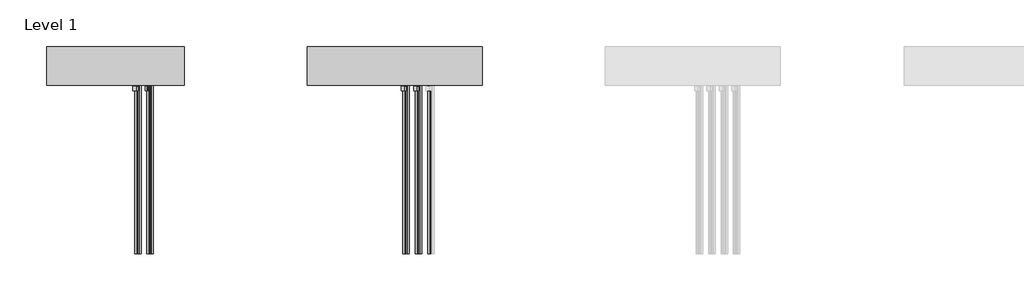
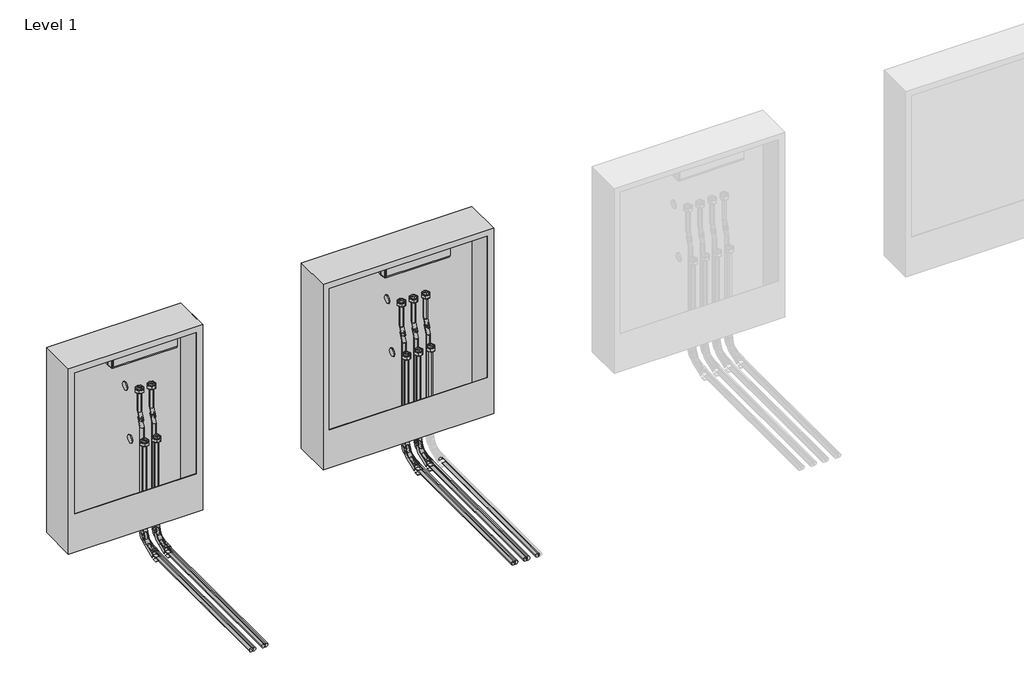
# One storey, part 1 of 15: 36 pipe fittings, 33 pipe segments, 2 proxies, 2 valves.
"""IFC4 building model written with IfcOpenShell, lengths in millimetres."""

from ifc_helpers import new_model, si_unit, point, frame, frame_2d, origin, place, context, project, spatial, circle_curve, trimmed, segment, composite_curve, outline, extrude, transform, mapped, element, save
from components import mechanical_equipment_387b3563, pipe_fitting_b05a7e06, pipe_fitting_27357a6d, pipe_fitting_daada113, pipe_fitting_3e503640, valve_1c49150c, valve_14c71488

model = new_model("IFC4")

# Units and contexts
model_context = context("Model", 3, world=origin())
ifc_project = project(units=[si_unit("LENGTHUNIT", "METRE", prefix="MILLI")], contexts=[model_context])

# Site, building, storey
site = spatial("IfcSite", under=ifc_project)
building = spatial("IfcBuilding", under=site)
storey = spatial("IfcBuildingStorey", under=building, Name="Level 1", Elevation=0.0)

# Proxies
placement = place(None, origin())
mechanical_equipment_shape = mechanical_equipment_387b3563(model_context)
element("IfcBuildingElementProxy", 1, Name="USYSTEMS_Контроллер UH-6 230В1 : Контроллер UH-6 230В 2", ObjectType="USYSTEMS_Контроллер UH-6 230В1 : Контроллер UH-6 230В 2", at=placement, inside=storey, context=model_context, shape_type="MappedRepresentation", body=[
    mapped(mechanical_equipment_shape, transform((2593.6311919, 3891.6582207, 729.375), x_axis=(1.0, 0.0, 0.0), y_axis=(0.0, 1.0, 0.0), z_axis=(0.0, 0.0, 1.0))),
])
element("IfcBuildingElementProxy", 2, Name="USYSTEMS_Контроллер UH-6 230В1 : Контроллер UH-6 230В 2", ObjectType="USYSTEMS_Контроллер UH-6 230В1 : Контроллер UH-6 230В 2", at=placement, inside=storey, context=model_context, shape_type="MappedRepresentation", body=[
    mapped(mechanical_equipment_shape, transform((3721.9565087, 3891.6623936, 729.375), x_axis=(1.0, 0.0, 0.0), y_axis=(0.0, 1.0, 0.0), z_axis=(0.0, 0.0, 1.0))),
])

# Pipe fittings
pipe_fitting_shape = pipe_fitting_b05a7e06(model_context)
element("IfcPipeFitting", 3, ObjectType="USYSTEMS_УгловойФиксатор_Multi : Угловой фиксатор", at=placement, inside=storey, context=model_context, shape_type="MappedRepresentation", body=[
    mapped(pipe_fitting_shape, transform((3668.5620456, 3819.7248936, -114.3211479), x_axis=(0.0, 0.0, -1.0), y_axis=(0.0, -1.0, 0.0), z_axis=(-1.0, 0.0, 0.0))),
])
element("IfcPipeFitting", 4, ObjectType="USYSTEMS_УгловойФиксатор_Multi : Угловой фиксатор", at=placement, inside=storey, context=model_context, shape_type="MappedRepresentation", body=[
    mapped(pipe_fitting_shape, transform((3718.5620456, 3819.7248936, -114.3211479), x_axis=(0.0, 0.0, -1.0), y_axis=(0.0, -1.0, 0.0), z_axis=(-1.0, 0.0, 0.0))),
])
element("IfcPipeFitting", 5, ObjectType="USYSTEMS_УгловойФиксатор_Multi : Угловой фиксатор", at=placement, inside=storey, context=model_context, shape_type="MappedRepresentation", body=[
    mapped(pipe_fitting_shape, transform((3678.6478021, 3855.7248936, -114.3211479), x_axis=(0.0, 0.0, -1.0), y_axis=(0.0, -1.0, 0.0), z_axis=(-1.0, 0.0, 0.0))),
])
element("IfcPipeFitting", 6, ObjectType="USYSTEMS_УгловойФиксатор_Multi : Угловой фиксатор", at=placement, inside=storey, context=model_context, shape_type="MappedRepresentation", body=[
    mapped(pipe_fitting_shape, transform((3728.6478021, 3855.7248936, -114.3211479), x_axis=(0.0, 0.0, -1.0), y_axis=(0.0, -1.0, 0.0), z_axis=(-1.0, 0.0, 0.0))),
])
element("IfcPipeFitting", 7, ObjectType="USYSTEMS_УгловойФиксатор_Multi : Угловой фиксатор", at=placement, inside=storey, context=model_context, shape_type="MappedRepresentation", body=[
    mapped(pipe_fitting_shape, transform((2585.2367288, 3819.7207207, -114.3211479), x_axis=(0.0, 0.0, -1.0), y_axis=(0.0, -1.0, 0.0), z_axis=(-1.0, 0.0, 0.0))),
])
element("IfcPipeFitting", 8, ObjectType="USYSTEMS_УгловойФиксатор_Multi : Угловой фиксатор", at=placement, inside=storey, context=model_context, shape_type="MappedRepresentation", body=[
    mapped(pipe_fitting_shape, transform((2635.2367288, 3819.7207207, -114.3211479), x_axis=(0.0, 0.0, -1.0), y_axis=(0.0, -1.0, 0.0), z_axis=(-1.0, 0.0, 0.0))),
])
element("IfcPipeFitting", 9, ObjectType="USYSTEMS_УгловойФиксатор_Multi : Угловой фиксатор", at=placement, inside=storey, context=model_context, shape_type="MappedRepresentation", body=[
    mapped(pipe_fitting_shape, transform((2595.3224852, 3855.7207207, -114.3211479), x_axis=(0.0, 0.0, -1.0), y_axis=(0.0, -1.0, 0.0), z_axis=(-1.0, 0.0, 0.0))),
])
element("IfcPipeFitting", 10, ObjectType="USYSTEMS_УгловойФиксатор_Multi : Угловой фиксатор", at=placement, inside=storey, context=model_context, shape_type="MappedRepresentation", body=[
    mapped(pipe_fitting_shape, transform((2645.3224852, 3855.7207207, -114.3211479), x_axis=(0.0, 0.0, -1.0), y_axis=(0.0, -1.0, 0.0), z_axis=(-1.0, 0.0, 0.0))),
])
pipe_fitting_2_shape = pipe_fitting_27357a6d(model_context)
element("IfcPipeFitting", 11, ObjectType="USYSTEMS_Штуцер с внутренней резьбой_FlexX_PEX : 16x2,0 x 3/4\" ВР Евроконус", at=placement, inside=storey, context=model_context, shape_type="MappedRepresentation", body=[
    mapped(pipe_fitting_2_shape, transform((2635.2367288, 3855.7209508, 538.3084133), x_axis=(0.0, 0.0, 1.0), y_axis=(0.0, 1.0, 0.0), z_axis=(-1.0, 0.0, 0.0))),
])
element("IfcPipeFitting", 12, ObjectType="USYSTEMS_Штуцер с внутренней резьбой_FlexX_PEX : 16x2,0 x 3/4\" ВР Евроконус", at=placement, inside=storey, context=model_context, shape_type="MappedRepresentation", body=[
    mapped(pipe_fitting_2_shape, transform((2635.2367288, 3819.7209508, 328.3084133), x_axis=(0.0, 0.0, 1.0), y_axis=(0.0, 1.0, 0.0), z_axis=(-1.0, 0.0, 0.0))),
])
element("IfcPipeFitting", 13, ObjectType="USYSTEMS_Штуцер с внутренней резьбой_FlexX_PEX : 16x2,0 x 3/4\" ВР Евроконус", at=placement, inside=storey, context=model_context, shape_type="MappedRepresentation", body=[
    mapped(pipe_fitting_2_shape, transform((2585.2367288, 3819.7209508, 328.3084133), x_axis=(0.0, 0.0, 1.0), y_axis=(0.0, 1.0, 0.0), z_axis=(-1.0, 0.0, 0.0))),
])
element("IfcPipeFitting", 14, ObjectType="USYSTEMS_Штуцер с внутренней резьбой_FlexX_PEX : 16x2,0 x 3/4\" ВР Евроконус", at=placement, inside=storey, context=model_context, shape_type="MappedRepresentation", body=[
    mapped(pipe_fitting_2_shape, transform((2585.2367288, 3855.7209508, 538.3084133), x_axis=(0.0, 0.0, 1.0), y_axis=(0.0, 1.0, 0.0), z_axis=(-1.0, 0.0, 0.0))),
])
element("IfcPipeFitting", 15, ObjectType="USYSTEMS_Штуцер с внутренней резьбой_FlexX_PEX : 16x2,0 x 3/4\" ВР Евроконус", at=placement, inside=storey, context=model_context, shape_type="MappedRepresentation", body=[
    mapped(pipe_fitting_2_shape, transform((3718.5620456, 3855.7253538, 538.3084133), x_axis=(0.0, 0.0, 1.0), y_axis=(0.0, 1.0, 0.0), z_axis=(-1.0, 0.0, 0.0))),
])
element("IfcPipeFitting", 16, ObjectType="USYSTEMS_Штуцер с внутренней резьбой_FlexX_PEX : 16x2,0 x 3/4\" ВР Евроконус", at=placement, inside=storey, context=model_context, shape_type="MappedRepresentation", body=[
    mapped(pipe_fitting_2_shape, transform((3718.5620456, 3819.7253538, 328.3084133), x_axis=(0.0, 0.0, 1.0), y_axis=(0.0, 1.0, 0.0), z_axis=(-1.0, 0.0, 0.0))),
])
element("IfcPipeFitting", 17, ObjectType="USYSTEMS_Штуцер с внутренней резьбой_FlexX_PEX : 16x2,0 x 3/4\" ВР Евроконус", at=placement, inside=storey, context=model_context, shape_type="MappedRepresentation", body=[
    mapped(pipe_fitting_2_shape, transform((3668.5620456, 3819.7253538, 328.3084133), x_axis=(0.0, 0.0, 1.0), y_axis=(0.0, 1.0, 0.0), z_axis=(-1.0, 0.0, 0.0))),
])
element("IfcPipeFitting", 18, ObjectType="USYSTEMS_Штуцер с внутренней резьбой_FlexX_PEX : 16x2,0 x 3/4\" ВР Евроконус", at=placement, inside=storey, context=model_context, shape_type="MappedRepresentation", body=[
    mapped(pipe_fitting_2_shape, transform((3668.5620456, 3855.7253538, 538.3084133), x_axis=(0.0, 0.0, 1.0), y_axis=(0.0, 1.0, 0.0), z_axis=(-1.0, 0.0, 0.0))),
])
element("IfcPipeFitting", 19, ObjectType="USYSTEMS_Штуцер с внутренней резьбой_FlexX_PEX : 16x2,0 x 3/4\" ВР Евроконус", at=placement, inside=storey, context=model_context, shape_type="MappedRepresentation", body=[
    mapped(pipe_fitting_2_shape, transform((3768.5620456, 3855.7253538, 538.3084133), x_axis=(0.0, 0.0, 1.0), y_axis=(0.0, 1.0, 0.0), z_axis=(-1.0, 0.0, 0.0))),
])
element("IfcPipeFitting", 20, ObjectType="USYSTEMS_Штуцер с внутренней резьбой_FlexX_PEX : 16x2,0 x 3/4\" ВР Евроконус", at=placement, inside=storey, context=model_context, shape_type="MappedRepresentation", body=[
    mapped(pipe_fitting_2_shape, transform((3768.5620456, 3819.7253538, 328.3084133), x_axis=(0.0, 0.0, 1.0), y_axis=(0.0, 1.0, 0.0), z_axis=(-1.0, 0.0, 0.0))),
])
pipe_fitting_3_shape = pipe_fitting_daada113(model_context)
element("IfcPipeFitting", 21, ObjectType="USYSTEMS_Гнутая труба_Radi Pipe : PN 6 в бухтах", at=placement, inside=storey, context=model_context, shape_type="MappedRepresentation", body=[
    mapped(pipe_fitting_3_shape, transform((2585.2367288, 3855.7205515, 421.3854492), x_axis=(0.0, 0.0, -1.0), y_axis=(1.0, 0.0, 0.0), z_axis=(0.0, -1.0, 0.0))),
])
element("IfcPipeFitting", 22, ObjectType="USYSTEMS_Гнутая труба_Radi Pipe : PN 6 в бухтах", at=placement, inside=storey, context=model_context, shape_type="MappedRepresentation", body=[
    mapped(pipe_fitting_3_shape, transform((2595.3224852, 3855.7207207, 395.1111553), x_axis=(0.3583679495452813, 0.0, -0.9335804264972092), y_axis=(-0.9335804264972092, 0.0, -0.3583679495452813), z_axis=(0.0, 1.0, 0.0))),
])
element("IfcPipeFitting", 23, ObjectType="USYSTEMS_Гнутая труба_Radi Pipe : PN 6 в бухтах", at=placement, inside=storey, context=model_context, shape_type="MappedRepresentation", body=[
    mapped(pipe_fitting_3_shape, transform((2635.2367288, 3855.7205516, 421.358847), x_axis=(0.0, 0.0, -1.0), y_axis=(1.0, 0.0, 0.0), z_axis=(0.0, -1.0, 0.0))),
])
element("IfcPipeFitting", 24, ObjectType="USYSTEMS_Гнутая труба_Radi Pipe : PN 6 в бухтах", at=placement, inside=storey, context=model_context, shape_type="MappedRepresentation", body=[
    mapped(pipe_fitting_3_shape, transform((2645.3224852, 3855.7207207, 395.0845531), x_axis=(0.3583679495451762, 0.0, -0.9335804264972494), y_axis=(-0.9335804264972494, 0.0, -0.3583679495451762), z_axis=(0.0, 1.0, 0.0))),
])
element("IfcPipeFitting", 25, ObjectType="USYSTEMS_Гнутая труба_Radi Pipe : PN 6 в бухтах", at=placement, inside=storey, context=model_context, shape_type="MappedRepresentation", body=[
    mapped(pipe_fitting_3_shape, transform((3668.5620456, 3855.7245938, 414.5388211), x_axis=(0.0, 0.0, -1.0), y_axis=(1.0, 0.0, 0.0), z_axis=(0.0, -1.0, 0.0))),
])
element("IfcPipeFitting", 26, ObjectType="USYSTEMS_Гнутая труба_Radi Pipe : PN 6 в бухтах", at=placement, inside=storey, context=model_context, shape_type="MappedRepresentation", body=[
    mapped(pipe_fitting_3_shape, transform((3678.6478021, 3855.7248936, 388.2645272), x_axis=(0.3583679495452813, 0.0, -0.9335804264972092), y_axis=(-0.9335804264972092, 0.0, -0.3583679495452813), z_axis=(0.0, 1.0, 0.0))),
])
element("IfcPipeFitting", 27, ObjectType="USYSTEMS_Гнутая труба_Radi Pipe : PN 6 в бухтах", at=placement, inside=storey, context=model_context, shape_type="MappedRepresentation", body=[
    mapped(pipe_fitting_3_shape, transform((3718.5620456, 3855.7245939, 414.5122189), x_axis=(0.0, 0.0, -1.0), y_axis=(1.0, 0.0, 0.0), z_axis=(0.0, -1.0, 0.0))),
])
element("IfcPipeFitting", 28, ObjectType="USYSTEMS_Гнутая труба_Radi Pipe : PN 6 в бухтах", at=placement, inside=storey, context=model_context, shape_type="MappedRepresentation", body=[
    mapped(pipe_fitting_3_shape, transform((3728.6478021, 3855.7248936, 388.237925), x_axis=(0.3583679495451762, 0.0, -0.9335804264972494), y_axis=(-0.9335804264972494, 0.0, -0.3583679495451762), z_axis=(0.0, 1.0, 0.0))),
])
element("IfcPipeFitting", 29, ObjectType="USYSTEMS_Гнутая труба_Radi Pipe : PN 6 в бухтах", at=placement, inside=storey, context=model_context, shape_type="MappedRepresentation", body=[
    mapped(pipe_fitting_3_shape, transform((3768.5620456, 3855.7251258, 414.5122189), x_axis=(0.0, 0.0, -1.0), y_axis=(1.0, 0.0, 0.0), z_axis=(0.0, -1.0, 0.0))),
])
element("IfcPipeFitting", 30, ObjectType="USYSTEMS_Гнутая труба_Radi Pipe : PN 6 в бухтах", at=placement, inside=storey, context=model_context, shape_type="MappedRepresentation", body=[
    mapped(pipe_fitting_3_shape, transform((3778.6478021, 3855.7252157, 388.237925), x_axis=(0.3583679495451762, 0.0, -0.9335804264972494), y_axis=(-0.9335804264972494, 0.0, -0.3583679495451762), z_axis=(0.0, 1.0, 0.0))),
])
pipe_fitting_4_shape = pipe_fitting_3e503640(model_context)
element("IfcPipeFitting", 31, ObjectType="USYSTEMS_Гнутая труба_Radi Pipe : PN 6 в бухтах_С фиксатором", at=placement, inside=storey, context=model_context, shape_type="MappedRepresentation", body=[
    mapped(pipe_fitting_4_shape, transform((3668.5620456, 3819.7248936, -114.3211479), x_axis=(0.0, 0.0, -1.0), y_axis=(0.0, -1.0, 0.0), z_axis=(-1.0, 0.0, 0.0))),
])
element("IfcPipeFitting", 32, ObjectType="USYSTEMS_Гнутая труба_Radi Pipe : PN 6 в бухтах_С фиксатором", at=placement, inside=storey, context=model_context, shape_type="MappedRepresentation", body=[
    mapped(pipe_fitting_4_shape, transform((3718.5620456, 3819.7248936, -114.3211479), x_axis=(0.0, 0.0, -1.0), y_axis=(0.0, -1.0, 0.0), z_axis=(-1.0, 0.0, 0.0))),
])
element("IfcPipeFitting", 33, ObjectType="USYSTEMS_Гнутая труба_Radi Pipe : PN 6 в бухтах_С фиксатором", at=placement, inside=storey, context=model_context, shape_type="MappedRepresentation", body=[
    mapped(pipe_fitting_4_shape, transform((3678.6478021, 3855.7248936, -114.3211479), x_axis=(0.0, 0.0, -1.0), y_axis=(0.0, -1.0, 0.0), z_axis=(-1.0, 0.0, 0.0))),
])
element("IfcPipeFitting", 34, ObjectType="USYSTEMS_Гнутая труба_Radi Pipe : PN 6 в бухтах_С фиксатором", at=placement, inside=storey, context=model_context, shape_type="MappedRepresentation", body=[
    mapped(pipe_fitting_4_shape, transform((3728.6478021, 3855.7248936, -114.3211479), x_axis=(0.0, 0.0, -1.0), y_axis=(0.0, -1.0, 0.0), z_axis=(-1.0, 0.0, 0.0))),
])
element("IfcPipeFitting", 35, ObjectType="USYSTEMS_Гнутая труба_Radi Pipe : PN 6 в бухтах_С фиксатором", at=placement, inside=storey, context=model_context, shape_type="MappedRepresentation", body=[
    mapped(pipe_fitting_4_shape, transform((2585.2367288, 3819.7207207, -114.3211479), x_axis=(0.0, 0.0, -1.0), y_axis=(0.0, -1.0, 0.0), z_axis=(-1.0, 0.0, 0.0))),
])
element("IfcPipeFitting", 36, ObjectType="USYSTEMS_Гнутая труба_Radi Pipe : PN 6 в бухтах_С фиксатором", at=placement, inside=storey, context=model_context, shape_type="MappedRepresentation", body=[
    mapped(pipe_fitting_4_shape, transform((2635.2367288, 3819.7207207, -114.3211479), x_axis=(0.0, 0.0, -1.0), y_axis=(0.0, -1.0, 0.0), z_axis=(-1.0, 0.0, 0.0))),
])
element("IfcPipeFitting", 37, ObjectType="USYSTEMS_Гнутая труба_Radi Pipe : PN 6 в бухтах_С фиксатором", at=placement, inside=storey, context=model_context, shape_type="MappedRepresentation", body=[
    mapped(pipe_fitting_4_shape, transform((2595.3224852, 3855.7207207, -114.3211479), x_axis=(0.0, 0.0, -1.0), y_axis=(0.0, -1.0, 0.0), z_axis=(-1.0, 0.0, 0.0))),
])
element("IfcPipeFitting", 38, ObjectType="USYSTEMS_Гнутая труба_Radi Pipe : PN 6 в бухтах_С фиксатором", at=placement, inside=storey, context=model_context, shape_type="MappedRepresentation", body=[
    mapped(pipe_fitting_4_shape, transform((2645.3224852, 3855.7207207, -114.3211479), x_axis=(0.0, 0.0, -1.0), y_axis=(0.0, -1.0, 0.0), z_axis=(-1.0, 0.0, 0.0))),
])

# Pipe segments
element("IfcPipeSegment", 39, ObjectType="USYSTEMS труба Radi Pipe белая PN6", at=placement, inside=storey, context=model_context, shape_type="SweptSolid", body=[
    extrude(outline(composite_curve([segment(trimmed(circle_curve(frame_2d((0.0, -8.0)), 8.0), [point((-8.0, -8.0))], [point((0.0, 0.0))], False, "CARTESIAN"), True, "CONTINUOUS"), segment(trimmed(circle_curve(frame_2d((0.0, -8.0)), 8.0), [point((0.0, 0.0))], [point((8.0, -8.0))], False, "CARTESIAN"), True, "CONTINUOUS"), segment(trimmed(circle_curve(frame_2d((0.0, -8.0)), 8.0), [point((8.0, -8.0))], [point((0.0, -16.0))], False, "CARTESIAN"), True, "CONTINUOUS"), segment(trimmed(circle_curve(frame_2d((0.0, -8.0)), 8.0), [point((0.0, -16.0))], [point((-8.0, -8.0))], False, "CARTESIAN"), True, "CONTINUOUS")], self_intersect=False)), frame((2585.2367288, 3811.7207207, -43.3211429), z_axis=(0.0, 6.207503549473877e-07, 0.9999999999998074), x_axis=(-1.0, 0.0, 0.0)), (0.0, 0.0, 1.0), 370.6295612),
])
element("IfcPipeSegment", 40, ObjectType="USYSTEMS труба Radi Pipe белая PN6", at=placement, inside=storey, context=model_context, shape_type="SweptSolid", body=[
    extrude(outline(composite_curve([segment(trimmed(circle_curve(frame_2d((0.0, -8.0)), 8.0), [point((-8.0, -8.0))], [point((0.0, 0.0))], False, "CARTESIAN"), True, "CONTINUOUS"), segment(trimmed(circle_curve(frame_2d((0.0, -8.0)), 8.0), [point((0.0, 0.0))], [point((8.0, -8.0))], False, "CARTESIAN"), True, "CONTINUOUS"), segment(trimmed(circle_curve(frame_2d((0.0, -8.0)), 8.0), [point((8.0, -8.0))], [point((0.0, -16.0))], False, "CARTESIAN"), True, "CONTINUOUS"), segment(trimmed(circle_curve(frame_2d((0.0, -8.0)), 8.0), [point((0.0, -16.0))], [point((-8.0, -8.0))], False, "CARTESIAN"), True, "CONTINUOUS")], self_intersect=False)), frame((2635.2367288, 3811.7207207, -43.3211429), z_axis=(0.0, 6.207503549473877e-07, 0.9999999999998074), x_axis=(-1.0, 0.0, 0.0)), (0.0, 0.0, 1.0), 370.6295612),
])
element("IfcPipeSegment", 41, ObjectType="USYSTEMS труба Radi Pipe белая PN6", at=placement, inside=storey, context=model_context, shape_type="SweptSolid", body=[
    extrude(outline(composite_curve([segment(trimmed(circle_curve(frame_2d((0.0, -8.0)), 8.0), [point((-8.0, -8.0))], [point((0.0, 0.0))], False, "CARTESIAN"), True, "CONTINUOUS"), segment(trimmed(circle_curve(frame_2d((0.0, -8.0)), 8.0), [point((0.0, 0.0))], [point((8.0, -8.0))], False, "CARTESIAN"), True, "CONTINUOUS"), segment(trimmed(circle_curve(frame_2d((0.0, -8.0)), 8.0), [point((8.0, -8.0))], [point((0.0, -16.0))], False, "CARTESIAN"), True, "CONTINUOUS"), segment(trimmed(circle_curve(frame_2d((0.0, -8.0)), 8.0), [point((0.0, -16.0))], [point((-8.0, -8.0))], False, "CARTESIAN"), True, "CONTINUOUS")], self_intersect=False)), frame((2635.2367288, 3847.7205516, 445.0822794), z_axis=(0.0, 4.328676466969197e-06, 0.9999999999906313), x_axis=(-1.0, 0.0, 0.0)), (0.0, 0.0, 1.0), 92.2261686),
])
element("IfcPipeSegment", 42, ObjectType="USYSTEMS труба Radi Pipe белая PN6", at=placement, inside=storey, context=model_context, shape_type="SweptSolid", body=[
    extrude(outline(composite_curve([segment(trimmed(circle_curve(frame_2d((0.0, -8.0)), 8.0), [point((-8.0, -8.0))], [point((0.0, 0.0))], False, "CARTESIAN"), True, "CONTINUOUS"), segment(trimmed(circle_curve(frame_2d((0.0, -8.0)), 8.0), [point((0.0, 0.0))], [point((8.0, -8.0))], False, "CARTESIAN"), True, "CONTINUOUS"), segment(trimmed(circle_curve(frame_2d((0.0, -8.0)), 8.0), [point((8.0, -8.0))], [point((0.0, -16.0))], False, "CARTESIAN"), True, "CONTINUOUS"), segment(trimmed(circle_curve(frame_2d((0.0, -8.0)), 8.0), [point((0.0, -16.0))], [point((-8.0, -8.0))], False, "CARTESIAN"), True, "CONTINUOUS")], self_intersect=False)), frame((2585.2367288, 3847.7205515, 445.1088816), z_axis=(0.0, 4.330844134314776e-06, 0.999999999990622), x_axis=(-1.0, 0.0, 0.0)), (0.0, 0.0, 1.0), 92.1995663),
])
element("IfcPipeSegment", 43, ObjectType="USYSTEMS труба Radi Pipe белая PN6", at=placement, inside=storey, context=model_context, shape_type="SweptSolid", body=[
    extrude(outline(composite_curve([segment(trimmed(circle_curve(frame_2d((0.0, 8.0)), 8.0), [point((0.0002096, 16.0))], [point((8.0, 7.9997904))], False, "CARTESIAN"), True, "CONTINUOUS"), segment(trimmed(circle_curve(frame_2d((0.0, 8.0)), 8.0), [point((8.0, 7.9997904))], [point((-0.0002097, 0.0))], False, "CARTESIAN"), True, "CONTINUOUS"), segment(trimmed(circle_curve(frame_2d((0.0, 8.0)), 8.0), [point((-0.0002097, 0.0))], [point((-8.0, 8.0002096))], False, "CARTESIAN"), True, "CONTINUOUS"), segment(trimmed(circle_curve(frame_2d((0.0, 8.0)), 8.0), [point((-8.0, 8.0002096))], [point((0.0002096, 16.0))], False, "CARTESIAN"), True, "CONTINUOUS")], self_intersect=False)), frame((2593.7384342, 3847.7205515, 399.2378246), z_axis=(-0.3583679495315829, 8.767114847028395e-06, 0.9335804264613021), x_axis=(0.9335804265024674, 3.3653800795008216e-06, 0.358367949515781)), (0.0, 0.0, 1.0), 19.3032171),
])
element("IfcPipeSegment", 44, ObjectType="USYSTEMS труба Radi Pipe белая PN6", at=placement, inside=storey, context=model_context, shape_type="SweptSolid", body=[
    extrude(outline(composite_curve([segment(trimmed(circle_curve(frame_2d((2595.3224852, 3855.7207207)), 8.0), [point((2603.3224852, 3855.7207207))], [point((2595.3224852, 3847.7207207))], False, "CARTESIAN"), True, "CONTINUOUS"), segment(trimmed(circle_curve(frame_2d((2595.3224852, 3855.7207207)), 8.0), [point((2595.3224852, 3847.7207207))], [point((2587.3224852, 3855.7207207))], False, "CARTESIAN"), True, "CONTINUOUS"), segment(trimmed(circle_curve(frame_2d((2595.3224852, 3855.7207207)), 8.0), [point((2587.3224852, 3855.7207207))], [point((2595.3224852, 3863.7207207))], False, "CARTESIAN"), True, "CONTINUOUS"), segment(trimmed(circle_curve(frame_2d((2595.3224852, 3855.7207207)), 8.0), [point((2595.3224852, 3863.7207207))], [point((2603.3224852, 3855.7207207))], False, "CARTESIAN"), True, "CONTINUOUS")], self_intersect=False)), frame((0.0, 0.0, -43.3211479), z_axis=(0.0, 0.0, 1.0), x_axis=(1.0, 0.0, 0.0)), (0.0, 0.0, 1.0), 414.7089055),
])
element("IfcPipeSegment", 45, ObjectType="USYSTEMS труба Radi Pipe белая PN6", at=placement, inside=storey, context=model_context, shape_type="SweptSolid", body=[
    extrude(outline(composite_curve([segment(trimmed(circle_curve(frame_2d((0.0, 8.0)), 8.0), [point((0.0002095, 16.0))], [point((8.0, 7.9997905))], False, "CARTESIAN"), True, "CONTINUOUS"), segment(trimmed(circle_curve(frame_2d((0.0, 8.0)), 8.0), [point((8.0, 7.9997905))], [point((-0.0002095, 0.0))], False, "CARTESIAN"), True, "CONTINUOUS"), segment(trimmed(circle_curve(frame_2d((0.0, 8.0)), 8.0), [point((-0.0002095, 0.0))], [point((-8.0, 8.0002095))], False, "CARTESIAN"), True, "CONTINUOUS"), segment(trimmed(circle_curve(frame_2d((0.0, 8.0)), 8.0), [point((-8.0, 8.0002095))], [point((0.0002095, 16.0))], False, "CARTESIAN"), True, "CONTINUOUS")], self_intersect=False)), frame((2643.7384342, 3847.7205516, 399.2112223), z_axis=(-0.3583679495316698, 8.76272668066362e-06, 0.9335804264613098), x_axis=(0.9335804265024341, 3.363695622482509e-06, 0.35836794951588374)), (0.0, 0.0, 1.0), 19.3032171),
])
element("IfcPipeSegment", 46, ObjectType="USYSTEMS труба Radi Pipe белая PN6", at=placement, inside=storey, context=model_context, shape_type="SweptSolid", body=[
    extrude(outline(composite_curve([segment(trimmed(circle_curve(frame_2d((2645.3224852, 3855.7207207)), 8.0), [point((2653.3224852, 3855.7207207))], [point((2645.3224852, 3847.7207207))], False, "CARTESIAN"), True, "CONTINUOUS"), segment(trimmed(circle_curve(frame_2d((2645.3224852, 3855.7207207)), 8.0), [point((2645.3224852, 3847.7207207))], [point((2637.3224852, 3855.7207207))], False, "CARTESIAN"), True, "CONTINUOUS"), segment(trimmed(circle_curve(frame_2d((2645.3224852, 3855.7207207)), 8.0), [point((2637.3224852, 3855.7207207))], [point((2645.3224852, 3863.7207207))], False, "CARTESIAN"), True, "CONTINUOUS"), segment(trimmed(circle_curve(frame_2d((2645.3224852, 3855.7207207)), 8.0), [point((2645.3224852, 3863.7207207))], [point((2653.3224852, 3855.7207207))], False, "CARTESIAN"), True, "CONTINUOUS")], self_intersect=False)), frame((0.0, 0.0, -43.3211479), z_axis=(0.0, 0.0, 1.0), x_axis=(1.0, 0.0, 0.0)), (0.0, 0.0, 1.0), 414.6823032),
])
element("IfcPipeSegment", 47, ObjectType="USYSTEMS труба Radi Pipe белая PN6", at=placement, inside=storey, context=model_context, shape_type="SweptSolid", body=[
    extrude(outline(composite_curve([segment(trimmed(circle_curve(frame_2d((-114.3211479, 2585.2367288)), 8.0), [point((-114.3211479, 2577.2367288))], [point((-122.3211479, 2585.2367288))], False, "CARTESIAN"), True, "CONTINUOUS"), segment(trimmed(circle_curve(frame_2d((-114.3211479, 2585.2367288)), 8.0), [point((-122.3211479, 2585.2367288))], [point((-114.3211479, 2593.2367288))], False, "CARTESIAN"), True, "CONTINUOUS"), segment(trimmed(circle_curve(frame_2d((-114.3211479, 2585.2367288)), 8.0), [point((-114.3211479, 2593.2367288))], [point((-106.3211479, 2585.2367288))], False, "CARTESIAN"), True, "CONTINUOUS"), segment(trimmed(circle_curve(frame_2d((-114.3211479, 2585.2367288)), 8.0), [point((-106.3211479, 2585.2367288))], [point((-114.3211479, 2577.2367288))], False, "CARTESIAN"), True, "CONTINUOUS")], self_intersect=False)), frame((0.0, 3054.7207207, 0.0), z_axis=(0.0, 1.0, 0.0), x_axis=(0.0, 0.0, 1.0)), (0.0, 0.0, 1.0), 694.0),
])
element("IfcPipeSegment", 48, ObjectType="USYSTEMS труба Radi Pipe белая PN6", at=placement, inside=storey, context=model_context, shape_type="SweptSolid", body=[
    extrude(outline(composite_curve([segment(trimmed(circle_curve(frame_2d((-114.3211479, 2635.2367288)), 8.0), [point((-114.3211479, 2627.2367288))], [point((-122.3211479, 2635.2367288))], False, "CARTESIAN"), True, "CONTINUOUS"), segment(trimmed(circle_curve(frame_2d((-114.3211479, 2635.2367288)), 8.0), [point((-122.3211479, 2635.2367288))], [point((-114.3211479, 2643.2367288))], False, "CARTESIAN"), True, "CONTINUOUS"), segment(trimmed(circle_curve(frame_2d((-114.3211479, 2635.2367288)), 8.0), [point((-114.3211479, 2643.2367288))], [point((-106.3211479, 2635.2367288))], False, "CARTESIAN"), True, "CONTINUOUS"), segment(trimmed(circle_curve(frame_2d((-114.3211479, 2635.2367288)), 8.0), [point((-106.3211479, 2635.2367288))], [point((-114.3211479, 2627.2367288))], False, "CARTESIAN"), True, "CONTINUOUS")], self_intersect=False)), frame((0.0, 3054.7207207, 0.0), z_axis=(0.0, 1.0, 0.0), x_axis=(0.0, 0.0, 1.0)), (0.0, 0.0, 1.0), 694.0),
])
element("IfcPipeSegment", 49, ObjectType="USYSTEMS труба Radi Pipe белая PN6", at=placement, inside=storey, context=model_context, shape_type="SweptSolid", body=[
    extrude(outline(composite_curve([segment(trimmed(circle_curve(frame_2d((-114.3211479, 2595.3224852)), 8.0), [point((-114.3211479, 2587.3224852))], [point((-122.3211479, 2595.3224852))], False, "CARTESIAN"), True, "CONTINUOUS"), segment(trimmed(circle_curve(frame_2d((-114.3211479, 2595.3224852)), 8.0), [point((-122.3211479, 2595.3224852))], [point((-114.3211479, 2603.3224852))], False, "CARTESIAN"), True, "CONTINUOUS"), segment(trimmed(circle_curve(frame_2d((-114.3211479, 2595.3224852)), 8.0), [point((-114.3211479, 2603.3224852))], [point((-106.3211479, 2595.3224852))], False, "CARTESIAN"), True, "CONTINUOUS"), segment(trimmed(circle_curve(frame_2d((-114.3211479, 2595.3224852)), 8.0), [point((-106.3211479, 2595.3224852))], [point((-114.3211479, 2587.3224852))], False, "CARTESIAN"), True, "CONTINUOUS")], self_intersect=False)), frame((0.0, 3054.7207207, 0.0), z_axis=(0.0, 1.0, 0.0), x_axis=(0.0, 0.0, 1.0)), (0.0, 0.0, 1.0), 730.0),
])
element("IfcPipeSegment", 50, ObjectType="USYSTEMS труба Radi Pipe белая PN6", at=placement, inside=storey, context=model_context, shape_type="SweptSolid", body=[
    extrude(outline(composite_curve([segment(trimmed(circle_curve(frame_2d((0.0, -8.0)), 8.0), [point((-8.0, -8.0))], [point((0.0, 0.0))], False, "CARTESIAN"), True, "CONTINUOUS"), segment(trimmed(circle_curve(frame_2d((0.0, -8.0)), 8.0), [point((0.0, 0.0))], [point((8.0, -8.0))], False, "CARTESIAN"), True, "CONTINUOUS"), segment(trimmed(circle_curve(frame_2d((0.0, -8.0)), 8.0), [point((8.0, -8.0))], [point((0.0, -16.0))], False, "CARTESIAN"), True, "CONTINUOUS"), segment(trimmed(circle_curve(frame_2d((0.0, -8.0)), 8.0), [point((0.0, -16.0))], [point((-8.0, -8.0))], False, "CARTESIAN"), True, "CONTINUOUS")], self_intersect=False)), frame((3668.5620456, 3811.7248936, -43.321138), z_axis=(0.0, 1.2415007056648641e-06, 0.9999999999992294), x_axis=(-1.0, 0.0, 0.0)), (0.0, 0.0, 1.0), 370.6295612),
])
element("IfcPipeSegment", 51, ObjectType="USYSTEMS труба Radi Pipe белая PN6", at=placement, inside=storey, context=model_context, shape_type="SweptSolid", body=[
    extrude(outline(composite_curve([segment(trimmed(circle_curve(frame_2d((0.0, -8.0)), 8.0), [point((-8.0, -8.0))], [point((0.0, 0.0))], False, "CARTESIAN"), True, "CONTINUOUS"), segment(trimmed(circle_curve(frame_2d((0.0, -8.0)), 8.0), [point((0.0, 0.0))], [point((8.0, -8.0))], False, "CARTESIAN"), True, "CONTINUOUS"), segment(trimmed(circle_curve(frame_2d((0.0, -8.0)), 8.0), [point((8.0, -8.0))], [point((0.0, -16.0))], False, "CARTESIAN"), True, "CONTINUOUS"), segment(trimmed(circle_curve(frame_2d((0.0, -8.0)), 8.0), [point((0.0, -16.0))], [point((-8.0, -8.0))], False, "CARTESIAN"), True, "CONTINUOUS")], self_intersect=False)), frame((3718.5620456, 3811.7248936, -43.321138), z_axis=(0.0, 1.2415007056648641e-06, 0.9999999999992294), x_axis=(-1.0, 0.0, 0.0)), (0.0, 0.0, 1.0), 370.6295612),
])
element("IfcPipeSegment", 52, ObjectType="USYSTEMS труба Radi Pipe белая PN6", at=placement, inside=storey, context=model_context, shape_type="SweptSolid", body=[
    extrude(outline(composite_curve([segment(trimmed(circle_curve(frame_2d((0.0, -8.0)), 8.0), [point((-8.0, -8.0))], [point((0.0, 0.0))], False, "CARTESIAN"), True, "CONTINUOUS"), segment(trimmed(circle_curve(frame_2d((0.0, -8.0)), 8.0), [point((0.0, 0.0))], [point((8.0, -8.0))], False, "CARTESIAN"), True, "CONTINUOUS"), segment(trimmed(circle_curve(frame_2d((0.0, -8.0)), 8.0), [point((8.0, -8.0))], [point((0.0, -16.0))], False, "CARTESIAN"), True, "CONTINUOUS"), segment(trimmed(circle_curve(frame_2d((0.0, -8.0)), 8.0), [point((0.0, -16.0))], [point((-8.0, -8.0))], False, "CARTESIAN"), True, "CONTINUOUS")], self_intersect=False)), frame((3718.5620456, 3847.7245939, 438.235678), z_axis=(0.0, 7.669400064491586e-06, 0.9999999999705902), x_axis=(-1.0, 0.0, 0.0)), (0.0, 0.0, 1.0), 99.0727967),
])
element("IfcPipeSegment", 53, ObjectType="USYSTEMS труба Radi Pipe белая PN6", at=placement, inside=storey, context=model_context, shape_type="SweptSolid", body=[
    extrude(outline(composite_curve([segment(trimmed(circle_curve(frame_2d((0.0, -8.0)), 8.0), [point((-8.0, -8.0))], [point((0.0, 0.0))], False, "CARTESIAN"), True, "CONTINUOUS"), segment(trimmed(circle_curve(frame_2d((0.0, -8.0)), 8.0), [point((0.0, 0.0))], [point((8.0, -8.0))], False, "CARTESIAN"), True, "CONTINUOUS"), segment(trimmed(circle_curve(frame_2d((0.0, -8.0)), 8.0), [point((8.0, -8.0))], [point((0.0, -16.0))], False, "CARTESIAN"), True, "CONTINUOUS"), segment(trimmed(circle_curve(frame_2d((0.0, -8.0)), 8.0), [point((0.0, -16.0))], [point((-8.0, -8.0))], False, "CARTESIAN"), True, "CONTINUOUS")], self_intersect=False)), frame((3668.5620456, 3847.7245938, 438.2622802), z_axis=(0.0, 7.672802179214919e-06, 0.9999999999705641), x_axis=(-1.0, 0.0, 0.0)), (0.0, 0.0, 1.0), 99.0461944),
])
element("IfcPipeSegment", 54, ObjectType="USYSTEMS труба Radi Pipe белая PN6", at=placement, inside=storey, context=model_context, shape_type="SweptSolid", body=[
    extrude(outline(composite_curve([segment(trimmed(circle_curve(frame_2d((0.0, 8.0)), 8.0), [point((0.0003714, 16.0))], [point((8.0, 7.9996286))], False, "CARTESIAN"), True, "CONTINUOUS"), segment(trimmed(circle_curve(frame_2d((0.0, 8.0)), 8.0), [point((8.0, 7.9996286))], [point((-0.0003715, 0.0))], False, "CARTESIAN"), True, "CONTINUOUS"), segment(trimmed(circle_curve(frame_2d((0.0, 8.0)), 8.0), [point((-0.0003715, 0.0))], [point((-8.0000001, 8.0003714))], False, "CARTESIAN"), True, "CONTINUOUS"), segment(trimmed(circle_curve(frame_2d((0.0, 8.0)), 8.0), [point((-8.0000001, 8.0003714))], [point((0.0003714, 16.0))], False, "CARTESIAN"), True, "CONTINUOUS")], self_intersect=False)), frame((3677.0637511, 3847.7245938, 392.3912544), z_axis=(-0.3583679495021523, 1.5532384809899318e-05, 0.9335804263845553), x_axis=(0.9335804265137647, 5.9623239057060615e-06, 0.3583679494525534)), (0.0, 0.0, 1.0), 19.3032171),
])
element("IfcPipeSegment", 55, ObjectType="USYSTEMS труба Radi Pipe белая PN6", at=placement, inside=storey, context=model_context, shape_type="SweptSolid", body=[
    extrude(outline(composite_curve([segment(trimmed(circle_curve(frame_2d((3678.6478021, 3855.7248936)), 8.0), [point((3686.6478021, 3855.7248936))], [point((3678.6478021, 3847.7248936))], False, "CARTESIAN"), True, "CONTINUOUS"), segment(trimmed(circle_curve(frame_2d((3678.6478021, 3855.7248936)), 8.0), [point((3678.6478021, 3847.7248936))], [point((3670.6478021, 3855.7248936))], False, "CARTESIAN"), True, "CONTINUOUS"), segment(trimmed(circle_curve(frame_2d((3678.6478021, 3855.7248936)), 8.0), [point((3670.6478021, 3855.7248936))], [point((3678.6478021, 3863.7248936))], False, "CARTESIAN"), True, "CONTINUOUS"), segment(trimmed(circle_curve(frame_2d((3678.6478021, 3855.7248936)), 8.0), [point((3678.6478021, 3863.7248936))], [point((3686.6478021, 3855.7248936))], False, "CARTESIAN"), True, "CONTINUOUS")], self_intersect=False)), frame((0.0, 0.0, -43.3211479), z_axis=(0.0, 0.0, 1.0), x_axis=(1.0, 0.0, 0.0)), (0.0, 0.0, 1.0), 407.8622774),
])
element("IfcPipeSegment", 56, ObjectType="USYSTEMS труба Radi Pipe белая PN6", at=placement, inside=storey, context=model_context, shape_type="SweptSolid", body=[
    extrude(outline(composite_curve([segment(trimmed(circle_curve(frame_2d((0.0, 8.0)), 8.0), [point((0.0003712, 16.0))], [point((8.0, 7.9996288))], False, "CARTESIAN"), True, "CONTINUOUS"), segment(trimmed(circle_curve(frame_2d((0.0, 8.0)), 8.0), [point((8.0, 7.9996288))], [point((-0.0003712, 0.0))], False, "CARTESIAN"), True, "CONTINUOUS"), segment(trimmed(circle_curve(frame_2d((0.0, 8.0)), 8.0), [point((-0.0003712, 0.0))], [point((-8.0000001, 8.0003713))], False, "CARTESIAN"), True, "CONTINUOUS"), segment(trimmed(circle_curve(frame_2d((0.0, 8.0)), 8.0), [point((-8.0000001, 8.0003713))], [point((0.0003712, 16.0))], False, "CARTESIAN"), True, "CONTINUOUS")], self_intersect=False)), frame((3727.0637511, 3847.7245939, 392.3646521), z_axis=(-0.35836794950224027, 1.5525497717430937e-05, 0.933580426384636), x_axis=(0.933580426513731, 5.959680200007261e-06, 0.35836794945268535)), (0.0, 0.0, 1.0), 19.3032171),
])
element("IfcPipeSegment", 57, ObjectType="USYSTEMS труба Radi Pipe белая PN6", at=placement, inside=storey, context=model_context, shape_type="SweptSolid", body=[
    extrude(outline(composite_curve([segment(trimmed(circle_curve(frame_2d((3728.6478021, 3855.7248936)), 8.0), [point((3736.6478021, 3855.7248936))], [point((3728.6478021, 3847.7248936))], False, "CARTESIAN"), True, "CONTINUOUS"), segment(trimmed(circle_curve(frame_2d((3728.6478021, 3855.7248936)), 8.0), [point((3728.6478021, 3847.7248936))], [point((3720.6478021, 3855.7248936))], False, "CARTESIAN"), True, "CONTINUOUS"), segment(trimmed(circle_curve(frame_2d((3728.6478021, 3855.7248936)), 8.0), [point((3720.6478021, 3855.7248936))], [point((3728.6478021, 3863.7248936))], False, "CARTESIAN"), True, "CONTINUOUS"), segment(trimmed(circle_curve(frame_2d((3728.6478021, 3855.7248936)), 8.0), [point((3728.6478021, 3863.7248936))], [point((3736.6478021, 3855.7248936))], False, "CARTESIAN"), True, "CONTINUOUS")], self_intersect=False)), frame((0.0, 0.0, -43.3211479), z_axis=(0.0, 0.0, 1.0), x_axis=(1.0, 0.0, 0.0)), (0.0, 0.0, 1.0), 407.8356751),
])
element("IfcPipeSegment", 58, ObjectType="USYSTEMS труба Radi Pipe белая PN6", at=placement, inside=storey, context=model_context, shape_type="SweptSolid", body=[
    extrude(outline(composite_curve([segment(trimmed(circle_curve(frame_2d((-114.3211479, 3668.5620456)), 8.0), [point((-114.3211479, 3660.5620456))], [point((-122.3211479, 3668.5620456))], False, "CARTESIAN"), True, "CONTINUOUS"), segment(trimmed(circle_curve(frame_2d((-114.3211479, 3668.5620456)), 8.0), [point((-122.3211479, 3668.5620456))], [point((-114.3211479, 3676.5620456))], False, "CARTESIAN"), True, "CONTINUOUS"), segment(trimmed(circle_curve(frame_2d((-114.3211479, 3668.5620456)), 8.0), [point((-114.3211479, 3676.5620456))], [point((-106.3211479, 3668.5620456))], False, "CARTESIAN"), True, "CONTINUOUS"), segment(trimmed(circle_curve(frame_2d((-114.3211479, 3668.5620456)), 8.0), [point((-106.3211479, 3668.5620456))], [point((-114.3211479, 3660.5620456))], False, "CARTESIAN"), True, "CONTINUOUS")], self_intersect=False)), frame((0.0, 3054.7207207, 0.0), z_axis=(0.0, 1.0, 0.0), x_axis=(0.0, 0.0, 1.0)), (0.0, 0.0, 1.0), 694.0041729),
])
element("IfcPipeSegment", 59, ObjectType="USYSTEMS труба Radi Pipe белая PN6", at=placement, inside=storey, context=model_context, shape_type="SweptSolid", body=[
    extrude(outline(composite_curve([segment(trimmed(circle_curve(frame_2d((-114.3211479, 3718.5620456)), 8.0), [point((-114.3211479, 3710.5620456))], [point((-122.3211479, 3718.5620456))], False, "CARTESIAN"), True, "CONTINUOUS"), segment(trimmed(circle_curve(frame_2d((-114.3211479, 3718.5620456)), 8.0), [point((-122.3211479, 3718.5620456))], [point((-114.3211479, 3726.5620456))], False, "CARTESIAN"), True, "CONTINUOUS"), segment(trimmed(circle_curve(frame_2d((-114.3211479, 3718.5620456)), 8.0), [point((-114.3211479, 3726.5620456))], [point((-106.3211479, 3718.5620456))], False, "CARTESIAN"), True, "CONTINUOUS"), segment(trimmed(circle_curve(frame_2d((-114.3211479, 3718.5620456)), 8.0), [point((-106.3211479, 3718.5620456))], [point((-114.3211479, 3710.5620456))], False, "CARTESIAN"), True, "CONTINUOUS")], self_intersect=False)), frame((0.0, 3054.7207207, 0.0), z_axis=(0.0, 1.0, 0.0), x_axis=(0.0, 0.0, 1.0)), (0.0, 0.0, 1.0), 694.0041729),
])
element("IfcPipeSegment", 60, ObjectType="USYSTEMS труба Radi Pipe белая PN6", at=placement, inside=storey, context=model_context, shape_type="SweptSolid", body=[
    extrude(outline(composite_curve([segment(trimmed(circle_curve(frame_2d((-114.3211479, 3678.6478021)), 8.0), [point((-114.3211479, 3670.6478021))], [point((-122.3211479, 3678.6478021))], False, "CARTESIAN"), True, "CONTINUOUS"), segment(trimmed(circle_curve(frame_2d((-114.3211479, 3678.6478021)), 8.0), [point((-122.3211479, 3678.6478021))], [point((-114.3211479, 3686.6478021))], False, "CARTESIAN"), True, "CONTINUOUS"), segment(trimmed(circle_curve(frame_2d((-114.3211479, 3678.6478021)), 8.0), [point((-114.3211479, 3686.6478021))], [point((-106.3211479, 3678.6478021))], False, "CARTESIAN"), True, "CONTINUOUS"), segment(trimmed(circle_curve(frame_2d((-114.3211479, 3678.6478021)), 8.0), [point((-106.3211479, 3678.6478021))], [point((-114.3211479, 3670.6478021))], False, "CARTESIAN"), True, "CONTINUOUS")], self_intersect=False)), frame((0.0, 3054.7207207, 0.0), z_axis=(0.0, 1.0, 0.0), x_axis=(0.0, 0.0, 1.0)), (0.0, 0.0, 1.0), 730.0041729),
])
element("IfcPipeSegment", 61, ObjectType="USYSTEMS труба Radi Pipe белая PN6", at=placement, inside=storey, context=model_context, shape_type="SweptSolid", body=[
    extrude(outline(composite_curve([segment(trimmed(circle_curve(frame_2d((-114.3211479, 3728.6478021)), 8.0), [point((-114.3211479, 3720.6478021))], [point((-122.3211479, 3728.6478021))], False, "CARTESIAN"), True, "CONTINUOUS"), segment(trimmed(circle_curve(frame_2d((-114.3211479, 3728.6478021)), 8.0), [point((-122.3211479, 3728.6478021))], [point((-114.3211479, 3736.6478021))], False, "CARTESIAN"), True, "CONTINUOUS"), segment(trimmed(circle_curve(frame_2d((-114.3211479, 3728.6478021)), 8.0), [point((-114.3211479, 3736.6478021))], [point((-106.3211479, 3728.6478021))], False, "CARTESIAN"), True, "CONTINUOUS"), segment(trimmed(circle_curve(frame_2d((-114.3211479, 3728.6478021)), 8.0), [point((-106.3211479, 3728.6478021))], [point((-114.3211479, 3720.6478021))], False, "CARTESIAN"), True, "CONTINUOUS")], self_intersect=False)), frame((0.0, 3054.7207207, 0.0), z_axis=(0.0, 1.0, 0.0), x_axis=(0.0, 0.0, 1.0)), (0.0, 0.0, 1.0), 730.0041729),
])
element("IfcPipeSegment", 62, ObjectType="USYSTEMS труба Radi Pipe белая PN6", at=placement, inside=storey, context=model_context, shape_type="SweptSolid", body=[
    extrude(outline(composite_curve([segment(trimmed(circle_curve(frame_2d((0.0, -8.0)), 8.0), [point((-8.0, -8.0))], [point((0.0, 0.0))], False, "CARTESIAN"), True, "CONTINUOUS"), segment(trimmed(circle_curve(frame_2d((0.0, -8.0)), 8.0), [point((0.0, 0.0))], [point((8.0, -8.0))], False, "CARTESIAN"), True, "CONTINUOUS"), segment(trimmed(circle_curve(frame_2d((0.0, -8.0)), 8.0), [point((8.0, -8.0))], [point((0.0, -16.0))], False, "CARTESIAN"), True, "CONTINUOUS"), segment(trimmed(circle_curve(frame_2d((0.0, -8.0)), 8.0), [point((0.0, -16.0))], [point((-8.0, -8.0))], False, "CARTESIAN"), True, "CONTINUOUS")], self_intersect=False)), frame((3768.5620456, 3811.7252157, -43.3211449), z_axis=(0.0, 3.7245021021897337e-07, 0.9999999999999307), x_axis=(-1.0, 0.0, 0.0)), (0.0, 0.0, 1.0), 370.6295612),
])
element("IfcPipeSegment", 63, ObjectType="USYSTEMS труба Radi Pipe белая PN6", at=placement, inside=storey, context=model_context, shape_type="SweptSolid", body=[
    extrude(outline(composite_curve([segment(trimmed(circle_curve(frame_2d((0.0, -8.0)), 8.0), [point((-8.0, -8.0))], [point((0.0, 0.0))], False, "CARTESIAN"), True, "CONTINUOUS"), segment(trimmed(circle_curve(frame_2d((0.0, -8.0)), 8.0), [point((0.0, 0.0))], [point((8.0, -8.0))], False, "CARTESIAN"), True, "CONTINUOUS"), segment(trimmed(circle_curve(frame_2d((0.0, -8.0)), 8.0), [point((8.0, -8.0))], [point((0.0, -16.0))], False, "CARTESIAN"), True, "CONTINUOUS"), segment(trimmed(circle_curve(frame_2d((0.0, -8.0)), 8.0), [point((0.0, -16.0))], [point((-8.0, -8.0))], False, "CARTESIAN"), True, "CONTINUOUS")], self_intersect=False)), frame((3768.5620456, 3847.7251258, 438.235635), z_axis=(0.0, 2.300820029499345e-06, 0.9999999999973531), x_axis=(-1.0, 0.0, 0.0)), (0.0, 0.0, 1.0), 99.0727967),
])
element("IfcPipeSegment", 64, ObjectType="USYSTEMS труба Radi Pipe белая PN6", at=placement, inside=storey, context=model_context, shape_type="SweptSolid", body=[
    extrude(outline(composite_curve([segment(trimmed(circle_curve(frame_2d((0.0, 8.0)), 8.0), [point((0.0001113, 16.0))], [point((8.0, 7.9998886))], False, "CARTESIAN"), True, "CONTINUOUS"), segment(trimmed(circle_curve(frame_2d((0.0, 8.0)), 8.0), [point((8.0, 7.9998886))], [point((-0.0001114, 0.0))], False, "CARTESIAN"), True, "CONTINUOUS"), segment(trimmed(circle_curve(frame_2d((0.0, 8.0)), 8.0), [point((-0.0001114, 0.0))], [point((-8.0000001, 8.0001114))], False, "CARTESIAN"), True, "CONTINUOUS"), segment(trimmed(circle_curve(frame_2d((0.0, 8.0)), 8.0), [point((-8.0000001, 8.0001114))], [point((0.0001113, 16.0))], False, "CARTESIAN"), True, "CONTINUOUS")], self_intersect=False)), frame((3777.0637511, 3847.7251258, 392.364559), z_axis=(-0.35836794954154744, 4.65764932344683e-06, 0.9335804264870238), x_axis=(0.9335804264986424, 1.7879040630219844e-06, 0.3583679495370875)), (0.0, 0.0, 1.0), 19.3032171),
])
element("IfcPipeSegment", 65, ObjectType="USYSTEMS труба Radi Pipe белая PN6", at=placement, inside=storey, context=model_context, shape_type="SweptSolid", body=[
    extrude(outline(composite_curve([segment(trimmed(circle_curve(frame_2d((3778.6478021, 3855.7252157)), 8.0), [point((3786.6478021, 3855.7252157))], [point((3778.6478021, 3847.7252157))], False, "CARTESIAN"), True, "CONTINUOUS"), segment(trimmed(circle_curve(frame_2d((3778.6478021, 3855.7252157)), 8.0), [point((3778.6478021, 3847.7252157))], [point((3770.6478021, 3855.7252157))], False, "CARTESIAN"), True, "CONTINUOUS"), segment(trimmed(circle_curve(frame_2d((3778.6478021, 3855.7252157)), 8.0), [point((3770.6478021, 3855.7252157))], [point((3778.6478021, 3863.7252157))], False, "CARTESIAN"), True, "CONTINUOUS"), segment(trimmed(circle_curve(frame_2d((3778.6478021, 3855.7252157)), 8.0), [point((3778.6478021, 3863.7252157))], [point((3786.6478021, 3855.7252157))], False, "CARTESIAN"), True, "CONTINUOUS")], self_intersect=False)), frame((0.0, 0.0, -43.3211479), z_axis=(0.0, 0.0, 1.0), x_axis=(1.0, 0.0, 0.0)), (0.0, 0.0, 1.0), 407.8356751),
])
element("IfcPipeSegment", 66, ObjectType="USYSTEMS труба Radi Pipe белая PN6", at=placement, inside=storey, context=model_context, shape_type="SweptSolid", body=[
    extrude(outline(composite_curve([segment(trimmed(circle_curve(frame_2d((-114.3211479, 3768.5620456)), 8.0), [point((-114.3211479, 3760.5620456))], [point((-122.3211479, 3768.5620456))], False, "CARTESIAN"), True, "CONTINUOUS"), segment(trimmed(circle_curve(frame_2d((-114.3211479, 3768.5620456)), 8.0), [point((-122.3211479, 3768.5620456))], [point((-114.3211479, 3776.5620456))], False, "CARTESIAN"), True, "CONTINUOUS"), segment(trimmed(circle_curve(frame_2d((-114.3211479, 3768.5620456)), 8.0), [point((-114.3211479, 3776.5620456))], [point((-106.3211479, 3768.5620456))], False, "CARTESIAN"), True, "CONTINUOUS"), segment(trimmed(circle_curve(frame_2d((-114.3211479, 3768.5620456)), 8.0), [point((-106.3211479, 3768.5620456))], [point((-114.3211479, 3760.5620456))], False, "CARTESIAN"), True, "CONTINUOUS")], self_intersect=False)), frame((0.0, 3054.7207207, 0.0), z_axis=(0.0, 1.0, 0.0), x_axis=(0.0, 0.0, 1.0)), (0.0, 0.0, 1.0), 694.004495),
])
element("IfcPipeSegment", 67, ObjectType="USYSTEMS труба Radi Pipe белая PN6", at=placement, inside=storey, context=model_context, shape_type="SweptSolid", body=[
    extrude(outline(composite_curve([segment(trimmed(circle_curve(frame_2d((-114.3211479, 2645.3224852)), 8.0), [point((-114.3211479, 2637.3224852))], [point((-122.3211479, 2645.3224852))], False, "CARTESIAN"), True, "CONTINUOUS"), segment(trimmed(circle_curve(frame_2d((-114.3211479, 2645.3224852)), 8.0), [point((-122.3211479, 2645.3224852))], [point((-114.3211479, 2653.3224852))], False, "CARTESIAN"), True, "CONTINUOUS"), segment(trimmed(circle_curve(frame_2d((-114.3211479, 2645.3224852)), 8.0), [point((-114.3211479, 2653.3224852))], [point((-106.3211479, 2645.3224852))], False, "CARTESIAN"), True, "CONTINUOUS"), segment(trimmed(circle_curve(frame_2d((-114.3211479, 2645.3224852)), 8.0), [point((-106.3211479, 2645.3224852))], [point((-114.3211479, 2637.3224852))], False, "CARTESIAN"), True, "CONTINUOUS")], self_intersect=False)), frame((0.0, 3054.7207207, 0.0), z_axis=(0.0, 1.0, 0.0), x_axis=(0.0, 0.0, 1.0)), (0.0, 0.0, 1.0), 730.0),
])
element("IfcPipeSegment", 68, ObjectType="Default", at=placement, inside=storey, context=model_context, shape_type="SweptSolid", body=[
    extrude(outline(composite_curve([segment(trimmed(circle_curve(frame_2d((3855.7209508, 575.3084133)), 16.7005), [point((3839.0204508, 575.3084133))], [point((3855.7209508, 592.0089133))], False, "CARTESIAN"), True, "CONTINUOUS"), segment(trimmed(circle_curve(frame_2d((3855.7209508, 575.3084133)), 16.7005), [point((3855.7209508, 592.0089133))], [point((3872.4214508, 575.3084133))], False, "CARTESIAN"), True, "CONTINUOUS"), segment(trimmed(circle_curve(frame_2d((3855.7209508, 575.3084133)), 16.7005), [point((3872.4214508, 575.3084133))], [point((3855.7209508, 558.6079133))], False, "CARTESIAN"), True, "CONTINUOUS"), segment(trimmed(circle_curve(frame_2d((3855.7209508, 575.3084133)), 16.7005), [point((3855.7209508, 558.6079133))], [point((3839.0204508, 575.3084133))], False, "CARTESIAN"), True, "CONTINUOUS")], self_intersect=False)), frame((2524.3873206, 0.0, 0.0), z_axis=(1.0, 0.0, 0.0), x_axis=(0.0, 1.0, 0.0)), (0.0, 0.0, 1.0), 3.2494082),
])
element("IfcPipeSegment", 69, ObjectType="Default", at=placement, inside=storey, context=model_context, shape_type="SweptSolid", body=[
    extrude(outline(composite_curve([segment(trimmed(circle_curve(frame_2d((3819.7209508, 365.3084133)), 16.7005), [point((3803.0204508, 365.3084133))], [point((3819.7209508, 382.0089133))], False, "CARTESIAN"), True, "CONTINUOUS"), segment(trimmed(circle_curve(frame_2d((3819.7209508, 365.3084133)), 16.7005), [point((3819.7209508, 382.0089133))], [point((3836.4214508, 365.3084133))], False, "CARTESIAN"), True, "CONTINUOUS"), segment(trimmed(circle_curve(frame_2d((3819.7209508, 365.3084133)), 16.7005), [point((3836.4214508, 365.3084133))], [point((3819.7209508, 348.6079133))], False, "CARTESIAN"), True, "CONTINUOUS"), segment(trimmed(circle_curve(frame_2d((3819.7209508, 365.3084133)), 16.7005), [point((3819.7209508, 348.6079133))], [point((3803.0204508, 365.3084133))], False, "CARTESIAN"), True, "CONTINUOUS")], self_intersect=False)), frame((2524.1631906, 0.0, 0.0), z_axis=(1.0, 0.0, 0.0), x_axis=(0.0, 1.0, 0.0)), (0.0, 0.0, 1.0), 3.4735381),
])
element("IfcPipeSegment", 70, ObjectType="Default", at=placement, inside=storey, context=model_context, shape_type="SweptSolid", body=[
    extrude(outline(composite_curve([segment(trimmed(circle_curve(frame_2d((3855.7253538, 575.3084133)), 16.7005), [point((3839.0248538, 575.3084133))], [point((3855.7253538, 592.0089133))], False, "CARTESIAN"), True, "CONTINUOUS"), segment(trimmed(circle_curve(frame_2d((3855.7253538, 575.3084133)), 16.7005), [point((3855.7253538, 592.0089133))], [point((3872.4258538, 575.3084133))], False, "CARTESIAN"), True, "CONTINUOUS"), segment(trimmed(circle_curve(frame_2d((3855.7253538, 575.3084133)), 16.7005), [point((3872.4258538, 575.3084133))], [point((3855.7253538, 558.6079133))], False, "CARTESIAN"), True, "CONTINUOUS"), segment(trimmed(circle_curve(frame_2d((3855.7253538, 575.3084133)), 16.7005), [point((3855.7253538, 558.6079133))], [point((3839.0248538, 575.3084133))], False, "CARTESIAN"), True, "CONTINUOUS")], self_intersect=False)), frame((3607.7126375, 0.0, 0.0), z_axis=(1.0, 0.0, 0.0), x_axis=(0.0, 1.0, 0.0)), (0.0, 0.0, 1.0), 3.2494082),
])
element("IfcPipeSegment", 71, ObjectType="Default", at=placement, inside=storey, context=model_context, shape_type="SweptSolid", body=[
    extrude(outline(composite_curve([segment(trimmed(circle_curve(frame_2d((3819.7253538, 365.3084133)), 16.7005), [point((3803.0248538, 365.3084133))], [point((3819.7253538, 382.0089133))], False, "CARTESIAN"), True, "CONTINUOUS"), segment(trimmed(circle_curve(frame_2d((3819.7253538, 365.3084133)), 16.7005), [point((3819.7253538, 382.0089133))], [point((3836.4258538, 365.3084133))], False, "CARTESIAN"), True, "CONTINUOUS"), segment(trimmed(circle_curve(frame_2d((3819.7253538, 365.3084133)), 16.7005), [point((3836.4258538, 365.3084133))], [point((3819.7253538, 348.6079133))], False, "CARTESIAN"), True, "CONTINUOUS"), segment(trimmed(circle_curve(frame_2d((3819.7253538, 365.3084133)), 16.7005), [point((3819.7253538, 348.6079133))], [point((3803.0248538, 365.3084133))], False, "CARTESIAN"), True, "CONTINUOUS")], self_intersect=False)), frame((3607.4885075, 0.0, 0.0), z_axis=(1.0, 0.0, 0.0), x_axis=(0.0, 1.0, 0.0)), (0.0, 0.0, 1.0), 3.4735381),
])

# Valves
valve_shape = valve_1c49150c(model_context)
element("IfcValve", 72, ObjectType="USYSTEMS_Коллекторный шкаф_Накладной : 555x160 мм", at=placement, inside=storey, context=model_context, shape_type="MappedRepresentation", body=[
    mapped(valve_shape, transform((2499.2340524, 3891.6487877, 423.1788521), x_axis=(1.0, 0.0, 0.0), y_axis=(0.0, 0.0, 1.0), z_axis=(0.0, -1.0, 0.0))),
])
valve_2_shape = valve_14c71488(model_context)
element("IfcValve", 73, ObjectType="USYSTEMS_Коллекторный шкаф_Накладной : 705x160 мм", at=placement, inside=storey, context=model_context, shape_type="MappedRepresentation", body=[
    mapped(valve_2_shape, transform((3627.5593693, 3891.6487877, 423.1788521), x_axis=(1.0, 0.0, 0.0), y_axis=(0.0, 0.0, 1.0), z_axis=(0.0, -1.0, 0.0))),
])

save(model, "model.ifc")
